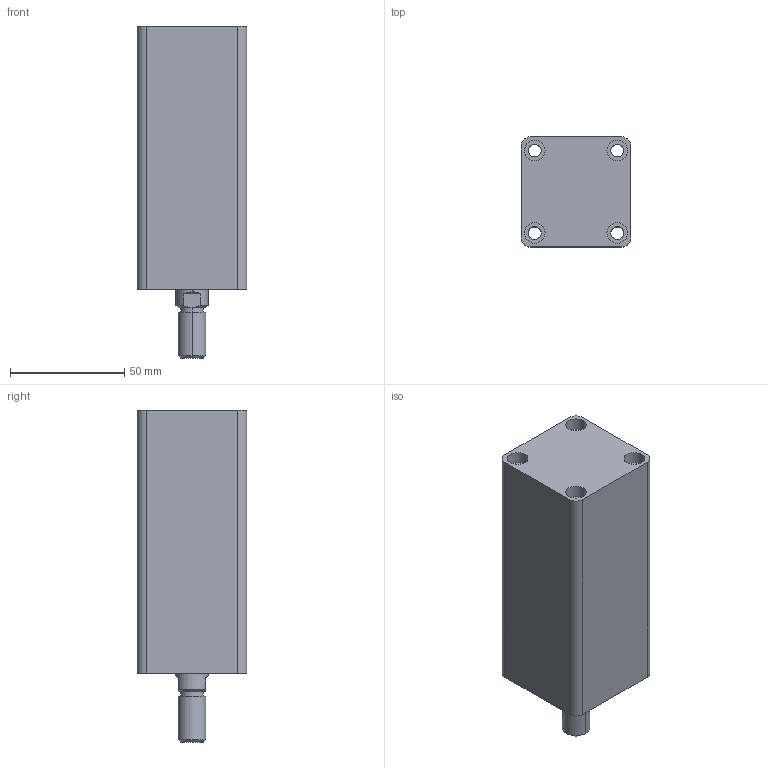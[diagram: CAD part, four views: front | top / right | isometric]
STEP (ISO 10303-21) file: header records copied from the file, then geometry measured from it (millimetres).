
FILE_DESCRIPTION (( 'STEP AP203' ), '1' );
FILE_NAME ('HTB-SD25-70W.STEP', '2019-10-07T06:19:01', ( '微软用户' ), ( '微软中国' ), 'SwSTEP 2.0', 'SolidWorks 2012', '' );
FILE_SCHEMA (( 'CONFIG_CONTROL_DESIGN' ));
Length unit declared in the file: millimetre
Products named in the file (3): HTB-SD25-70掛极; HTB-SD25-70W; HTB-SD25-70W活塞杆
Assembly tree (2 placements, depth 2):
  HTB-SD25-70W
    HTB-SD25-70掛极
    HTB-SD25-70W活塞杆
Bounding box: 48 x 48 x 145 mm (x, y, z)
Volume: 229299.6 mm3; surface area: 50363.9 mm2
Topology: 2 solids, 2 shells, 87 faces, 188 edges, 122 vertices
Faces by surface type: cylinder 44, plane 29, cone 8, torus 6
Entity records: 2759 total; most frequent: DIRECTION 476, CARTESIAN_POINT 446, ORIENTED_EDGE 376, AXIS2_PLACEMENT_3D 204, EDGE_CURVE 188, VERTEX_POINT 122, EDGE_LOOP 112, CIRCLE 112
